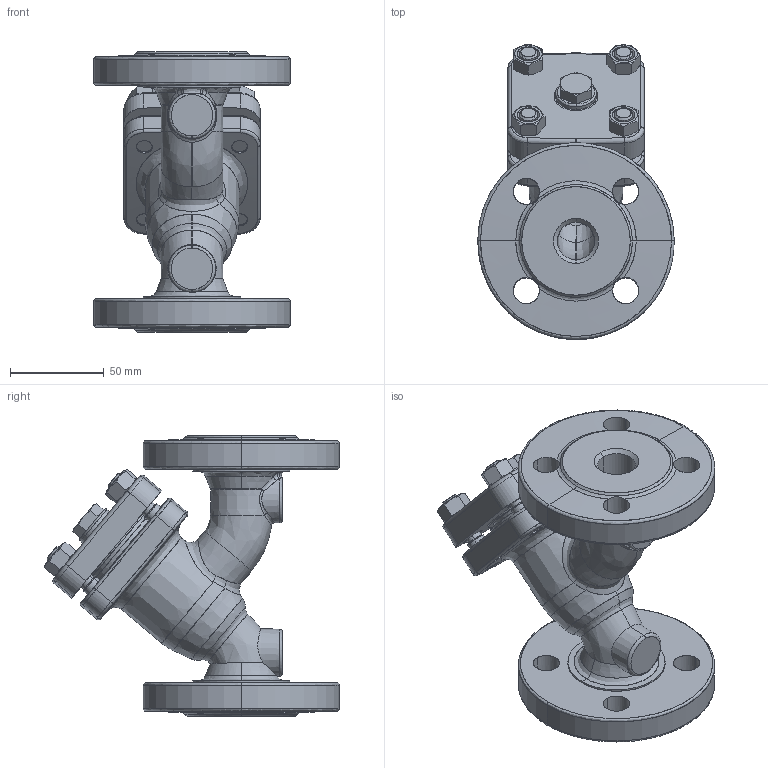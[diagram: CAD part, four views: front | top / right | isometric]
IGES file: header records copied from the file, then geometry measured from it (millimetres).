
Start section: SolidWorks IGES file using analytic representation for surfaces
Global section: file name: D:\Archiwum SolidWorks\staliwo\821\PN40\CAD\821_DN20 PN40.IGS; native system: SolidWorks 2010; preprocessor: SolidWorks 2010; author: wtarnaws; date: 100113.073816; units: millimetre
Bounding box: 105 x 157.68 x 150 mm (x, y, z)
Surface area: 117850.8 mm2 (no closed solid volume)
Topology: 0 solids, 0 shells, 477 faces, 7498 edges, 7498 vertices
Faces by surface type: revolution 270, bspline 207
